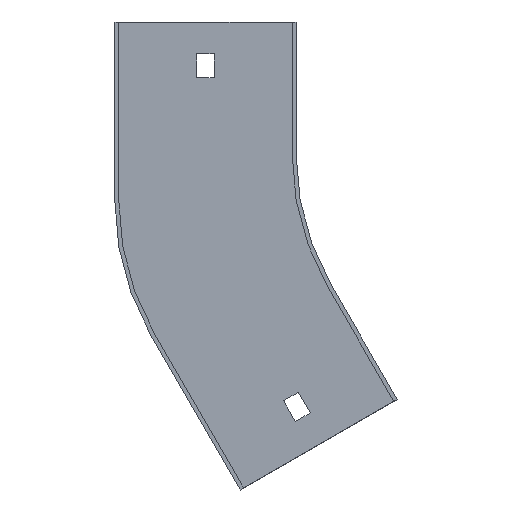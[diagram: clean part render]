
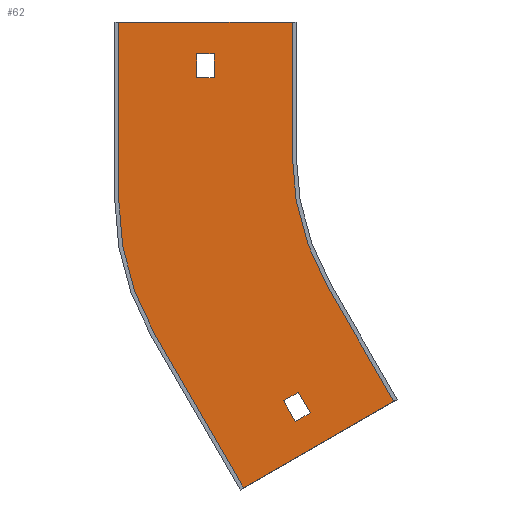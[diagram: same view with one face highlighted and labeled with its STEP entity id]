
A CAD part, front view. The second image highlights one B-rep face of the part: STEP entity #62.
In plain terms, the highlighted planar face has unit normal (0, -1, 0).
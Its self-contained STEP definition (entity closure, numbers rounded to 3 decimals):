
#1 = DIRECTION ( 'NONE',  ( 1., 0., 0. ) ) ;
#20 = EDGE_LOOP ( 'NONE', ( #516, #280, #861, #412 ) ) ;
#38 = EDGE_CURVE ( 'NONE', #224, #770, #455, .T. ) ;
#49 = EDGE_CURVE ( 'NONE', #190, #208, #329, .T. ) ;
#53 = VERTEX_POINT ( 'NONE', #77 ) ;
#54 = VECTOR ( 'NONE', #676, 1000. ) ;
#62 = ADVANCED_FACE ( 'NONE', ( #338, #525, #150 ), #71, .T. ) ;
#63 = VERTEX_POINT ( 'NONE', #593 ) ;
#67 = LINE ( 'NONE', #261, #442 ) ;
#69 = VERTEX_POINT ( 'NONE', #792 ) ;
#71 = PLANE ( 'NONE',  #362 ) ;
#72 = EDGE_CURVE ( 'NONE', #824, #69, #145, .T. ) ;
#74 = CARTESIAN_POINT ( 'NONE',  ( -117.779, -1.5, -68. ) ) ;
#76 = DIRECTION ( 'NONE',  ( 0., 0., -1. ) ) ;
#77 = CARTESIAN_POINT ( 'NONE',  ( -129.5, -1.5, 38. ) ) ;
#79 = CARTESIAN_POINT ( 'NONE',  ( -100., -1.5, 50. ) ) ;
#84 = DIRECTION ( 'NONE',  ( 0.5, 0., -0.866 ) ) ;
#99 = CARTESIAN_POINT ( 'NONE',  ( -100., -1.5, 50. ) ) ;
#109 = EDGE_CURVE ( 'NONE', #770, #824, #401, .T. ) ;
#119 = DIRECTION ( 'NONE',  ( 0., 0., -1. ) ) ;
#133 = CARTESIAN_POINT ( 'NONE',  ( 0., -1.5, 0. ) ) ;
#135 = CARTESIAN_POINT ( 'NONE',  ( -112.15, -1.5, -64.75 ) ) ;
#137 = VERTEX_POINT ( 'NONE', #458 ) ;
#138 = VECTOR ( 'NONE', #596, 1000. ) ;
#145 = LINE ( 'NONE', #135, #138 ) ;
#149 = AXIS2_PLACEMENT_3D ( 'NONE', #467, #395, #673 ) ;
#150 = FACE_BOUND ( 'NONE', #549, .T. ) ;
#151 = EDGE_CURVE ( 'NONE', #385, #137, #541, .T. ) ;
#152 = LINE ( 'NONE', #681, #253 ) ;
#153 = ORIENTED_EDGE ( 'NONE', *, *, #465, .F. ) ;
#163 = CARTESIAN_POINT ( 'NONE',  ( -100., -1.5, 0. ) ) ;
#169 = CARTESIAN_POINT ( 'NONE',  ( -118.327, -1.5, -126.051 ) ) ;
#190 = VERTEX_POINT ( 'NONE', #99 ) ;
#199 = VECTOR ( 'NONE', #425, 1000. ) ;
#208 = VERTEX_POINT ( 'NONE', #163 ) ;
#209 = DIRECTION ( 'NONE',  ( 0., -1., 0. ) ) ;
#217 = LINE ( 'NONE', #477, #426 ) ;
#220 = EDGE_CURVE ( 'NONE', #405, #273, #152, .T. ) ;
#223 = EDGE_CURVE ( 'NONE', #69, #224, #447, .T. ) ;
#224 = VERTEX_POINT ( 'NONE', #727 ) ;
#233 = EDGE_LOOP ( 'NONE', ( #564, #153, #534, #645, #473, #826, #608, #692 ) ) ;
#240 = VECTOR ( 'NONE', #1, 1000. ) ;
#241 = VERTEX_POINT ( 'NONE', #697 ) ;
#253 = VECTOR ( 'NONE', #84, 1000. ) ;
#254 = CARTESIAN_POINT ( 'NONE',  ( -61.603, -1.5, -93.301 ) ) ;
#258 = VERTEX_POINT ( 'NONE', #660 ) ;
#261 = CARTESIAN_POINT ( 'NONE',  ( -165.5, -1.5, -17.551 ) ) ;
#266 = VECTOR ( 'NONE', #741, 1000. ) ;
#273 = VERTEX_POINT ( 'NONE', #254 ) ;
#280 = ORIENTED_EDGE ( 'NONE', *, *, #109, .F. ) ;
#295 = DIRECTION ( 'NONE',  ( 1., 0., 0. ) ) ;
#305 = DIRECTION ( 'NONE',  ( 0., 0., 1. ) ) ;
#309 = EDGE_CURVE ( 'NONE', #208, #405, #609, .T. ) ;
#326 = VERTEX_POINT ( 'NONE', #818 ) ;
#328 = LINE ( 'NONE', #382, #538 ) ;
#329 = LINE ( 'NONE', #79, #54 ) ;
#338 = FACE_BOUND ( 'NONE', #20, .T. ) ;
#362 = AXIS2_PLACEMENT_3D ( 'NONE', #536, #209, #610 ) ;
#382 = CARTESIAN_POINT ( 'NONE',  ( -60.304, -1.5, -92.551 ) ) ;
#385 = VERTEX_POINT ( 'NONE', #828 ) ;
#394 = CARTESIAN_POINT ( 'NONE',  ( -86.603, -1.5, -50. ) ) ;
#395 = DIRECTION ( 'NONE',  ( 0., 1., 0. ) ) ;
#401 = LINE ( 'NONE', #748, #749 ) ;
#403 = EDGE_CURVE ( 'NONE', #651, #190, #531, .T. ) ;
#405 = VERTEX_POINT ( 'NONE', #394 ) ;
#409 = VECTOR ( 'NONE', #733, 1000. ) ;
#412 = ORIENTED_EDGE ( 'NONE', *, *, #223, .F. ) ;
#425 = DIRECTION ( 'NONE',  ( -0.5, 0., 0.866 ) ) ;
#426 = VECTOR ( 'NONE', #295, 1000. ) ;
#441 = DIRECTION ( 'NONE',  ( -0.866, 0., -0.5 ) ) ;
#442 = VECTOR ( 'NONE', #305, 1000. ) ;
#447 = LINE ( 'NONE', #578, #572 ) ;
#455 = LINE ( 'NONE', #74, #409 ) ;
#458 = CARTESIAN_POINT ( 'NONE',  ( -165.5, -1.5, -17.551 ) ) ;
#465 = EDGE_CURVE ( 'NONE', #137, #651, #67, .T. ) ;
#467 = CARTESIAN_POINT ( 'NONE',  ( -65.5, -1.5, -17.551 ) ) ;
#473 = ORIENTED_EDGE ( 'NONE', *, *, #621, .F. ) ;
#477 = CARTESIAN_POINT ( 'NONE',  ( 0., -1.5, 38. ) ) ;
#496 = CARTESIAN_POINT ( 'NONE',  ( -129.5, -1.5, 0. ) ) ;
#516 = ORIENTED_EDGE ( 'NONE', *, *, #72, .F. ) ;
#524 = DIRECTION ( 'NONE',  ( -0.866, 0., -0.5 ) ) ;
#525 = FACE_OUTER_BOUND ( 'NONE', #233, .T. ) ;
#530 = ORIENTED_EDGE ( 'NONE', *, *, #782, .T. ) ;
#531 = LINE ( 'NONE', #740, #240 ) ;
#534 = ORIENTED_EDGE ( 'NONE', *, *, #151, .F. ) ;
#536 = CARTESIAN_POINT ( 'NONE',  ( 0., -1.5, 0. ) ) ;
#538 = VECTOR ( 'NONE', #524, 1000. ) ;
#540 = LINE ( 'NONE', #812, #719 ) ;
#541 = CIRCLE ( 'NONE', #149, 100. ) ;
#547 = LINE ( 'NONE', #169, #199 ) ;
#549 = EDGE_LOOP ( 'NONE', ( #856, #691, #530, #759 ) ) ;
#555 = VECTOR ( 'NONE', #76, 1000. ) ;
#564 = ORIENTED_EDGE ( 'NONE', *, *, #403, .F. ) ;
#572 = VECTOR ( 'NONE', #441, 1000. ) ;
#578 = CARTESIAN_POINT ( 'NONE',  ( 14.5, -1.5, -25.115 ) ) ;
#593 = CARTESIAN_POINT ( 'NONE',  ( -118.327, -1.5, -126.051 ) ) ;
#596 = DIRECTION ( 'NONE',  ( -0.5, 0., 0.866 ) ) ;
#608 = ORIENTED_EDGE ( 'NONE', *, *, #309, .F. ) ;
#609 = CIRCLE ( 'NONE', #722, 100. ) ;
#610 = DIRECTION ( 'NONE',  ( 0., 0., -1. ) ) ;
#621 = EDGE_CURVE ( 'NONE', #273, #63, #328, .T. ) ;
#641 = EDGE_CURVE ( 'NONE', #258, #326, #794, .T. ) ;
#645 = ORIENTED_EDGE ( 'NONE', *, *, #687, .F. ) ;
#651 = VERTEX_POINT ( 'NONE', #854 ) ;
#660 = CARTESIAN_POINT ( 'NONE',  ( -136., -1.5, 29. ) ) ;
#668 = EDGE_CURVE ( 'NONE', #53, #241, #827, .T. ) ;
#673 = DIRECTION ( 'NONE',  ( 0., 0., -1. ) ) ;
#676 = DIRECTION ( 'NONE',  ( 0., 0., -1. ) ) ;
#681 = CARTESIAN_POINT ( 'NONE',  ( -86.603, -1.5, -50. ) ) ;
#687 = EDGE_CURVE ( 'NONE', #63, #385, #547, .T. ) ;
#691 = ORIENTED_EDGE ( 'NONE', *, *, #668, .T. ) ;
#692 = ORIENTED_EDGE ( 'NONE', *, *, #49, .F. ) ;
#697 = CARTESIAN_POINT ( 'NONE',  ( -129.5, -1.5, 29. ) ) ;
#714 = DIRECTION ( 'NONE',  ( 0., -1., 0. ) ) ;
#719 = VECTOR ( 'NONE', #815, 1000. ) ;
#722 = AXIS2_PLACEMENT_3D ( 'NONE', #133, #714, #119 ) ;
#727 = CARTESIAN_POINT ( 'NONE',  ( -103.279, -1.5, -93.115 ) ) ;
#733 = DIRECTION ( 'NONE',  ( 0.5, 0., -0.866 ) ) ;
#740 = CARTESIAN_POINT ( 'NONE',  ( -167., -1.5, 50. ) ) ;
#741 = DIRECTION ( 'NONE',  ( 0., 0., 1. ) ) ;
#748 = CARTESIAN_POINT ( 'NONE',  ( 19., -1.5, -32.909 ) ) ;
#749 = VECTOR ( 'NONE', #795, 1000. ) ;
#759 = ORIENTED_EDGE ( 'NONE', *, *, #641, .T. ) ;
#760 = CARTESIAN_POINT ( 'NONE',  ( -98.779, -1.5, -100.909 ) ) ;
#768 = CARTESIAN_POINT ( 'NONE',  ( -93.15, -1.5, -97.659 ) ) ;
#770 = VERTEX_POINT ( 'NONE', #760 ) ;
#782 = EDGE_CURVE ( 'NONE', #241, #258, #540, .T. ) ;
#792 = CARTESIAN_POINT ( 'NONE',  ( -97.65, -1.5, -89.865 ) ) ;
#793 = EDGE_CURVE ( 'NONE', #326, #53, #217, .T. ) ;
#794 = LINE ( 'NONE', #859, #266 ) ;
#795 = DIRECTION ( 'NONE',  ( 0.866, 0., 0.5 ) ) ;
#812 = CARTESIAN_POINT ( 'NONE',  ( 0., -1.5, 29. ) ) ;
#815 = DIRECTION ( 'NONE',  ( -1., 0., 0. ) ) ;
#818 = CARTESIAN_POINT ( 'NONE',  ( -136., -1.5, 38. ) ) ;
#824 = VERTEX_POINT ( 'NONE', #768 ) ;
#826 = ORIENTED_EDGE ( 'NONE', *, *, #220, .F. ) ;
#827 = LINE ( 'NONE', #496, #555 ) ;
#828 = CARTESIAN_POINT ( 'NONE',  ( -152.103, -1.5, -67.551 ) ) ;
#854 = CARTESIAN_POINT ( 'NONE',  ( -165.5, -1.5, 50. ) ) ;
#856 = ORIENTED_EDGE ( 'NONE', *, *, #793, .T. ) ;
#859 = CARTESIAN_POINT ( 'NONE',  ( -136., -1.5, 0. ) ) ;
#861 = ORIENTED_EDGE ( 'NONE', *, *, #38, .F. ) ;
